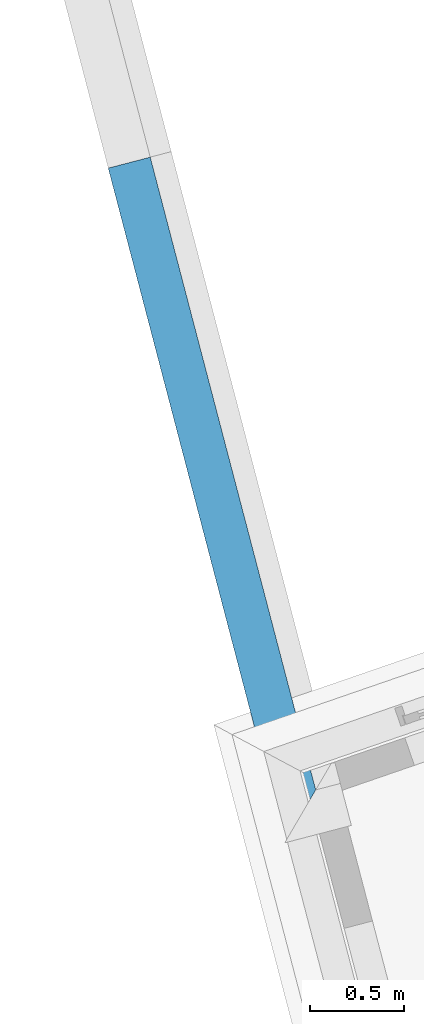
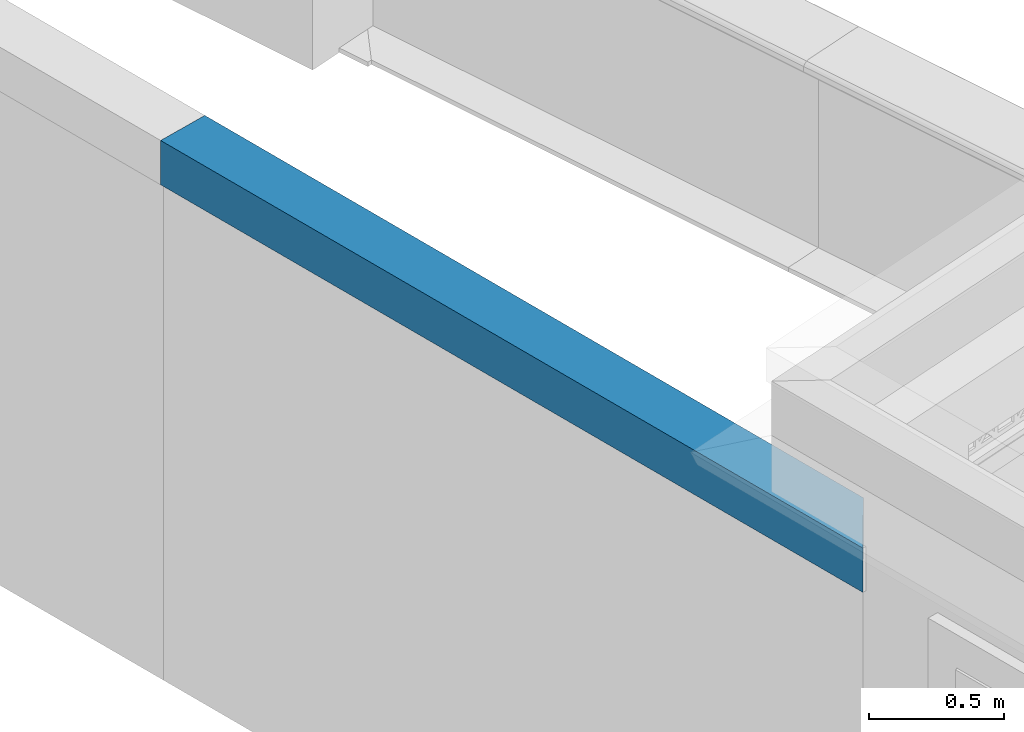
# One storey, part 2 of 16: 1 wall.
"""IFC4 building model written with IfcOpenShell, lengths in metres."""

from ifc_helpers import new_model, si_unit, frame, origin_with_axes, place, context, subcontext, project, spatial, polyline, outline, extrude, clip, halfspace, material_profile, profile_set, profile_usage, type_object, element, save


model = new_model("IFC4")

# Units and contexts
model_context = context("Model", 3, world=origin_with_axes())
body_context = subcontext(model_context, "Body", "Model", "MODEL_VIEW")
ifc_project = project(units=[si_unit("PLANEANGLEUNIT", "RADIAN"), si_unit("MASSUNIT", "GRAM", prefix="KILO"), si_unit("FORCEUNIT", "NEWTON", prefix="KILO"), si_unit("LENGTHUNIT", "METRE"), si_unit("AREAUNIT", "SQUARE_METRE"), si_unit("VOLUMEUNIT", "CUBIC_METRE")], contexts=[model_context, model_context])

# Site, building, storey
site_placement = place(None, origin_with_axes())
site = spatial("IfcSite", under=ifc_project, at=site_placement, Name="Site plot-8", CompositionType="ELEMENT")
building_placement = place(None, origin_with_axes())
building = spatial("IfcBuilding", under=site, at=building_placement, Name="Building plot-8", CompositionType="ELEMENT")
storey_placement = place(None, frame((0.0, 0.0, 3.0), z_axis=(0.0, 0.0, 1.0), x_axis=(1.0, 0.0, 0.0)))
storey = spatial("IfcBuildingStorey", under=building, at=storey_placement, Name="plot-8 1", CompositionType="ELEMENT", Elevation=3.0)

# Wall
ifc_material_profile = material_profile(None, outline(polyline([(0.265, 2.245), (0.265, 2.445), (0.035, 2.445), (0.035, 2.245), (0.265, 2.245)])))
ifc_profile_set = profile_set([ifc_material_profile])
ifc_profile_usage = profile_usage(ifc_profile_set)
wall_type = type_object("IfcWallType", Name="parapet street_1", PredefinedType="PARAPET", material=ifc_profile_set)
wall_placement = place(storey_placement, frame((-12.8381702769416, 12.8894083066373, 0.0), z_axis=(-0.253028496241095, 0.96745882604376, 0.0), x_axis=(-0.96745882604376, -0.253028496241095, 0.0)))
element("IfcWall", 1, at=wall_placement, inside=storey, type_object=wall_type, material=ifc_profile_usage, Name="parapet street_1", context=body_context, shape_type="Clipping", body=[
    clip(clip(extrude(outline(polyline([(0.265, 2.245), (0.265, 2.445), (0.035, 2.445), (0.035, 2.245), (0.265, 2.245)])), origin_with_axes(), (0.0, 0.0, 1.0), 5.43188389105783), halfspace(frame((0.0, 0.0, 4.43188389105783), z_axis=(3.1025012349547e-14, 0.0, -1.0), x_axis=(0.0, 1.0, 0.0)), True)), halfspace(frame((0.0, 0.0, 1.0), z_axis=(-0.707106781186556, 0.0, -0.707106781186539), x_axis=(0.0, 1.0, 0.0)), False)),
])

save(model, "model.ifc")
